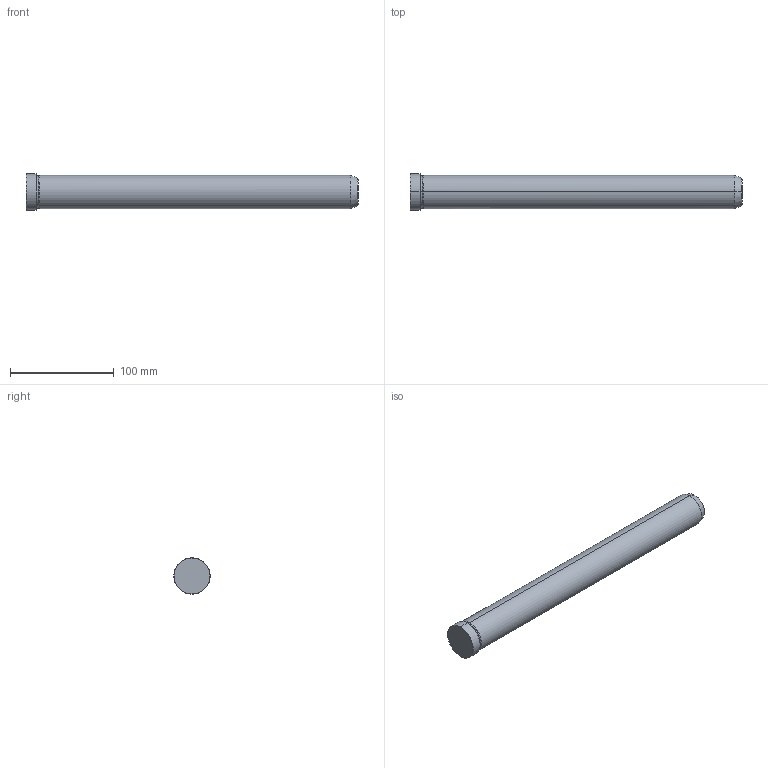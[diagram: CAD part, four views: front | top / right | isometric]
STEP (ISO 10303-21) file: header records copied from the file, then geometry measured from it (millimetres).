
FILE_DESCRIPTION(('CATIA V5 STEP Exchange'),'2;1');
FILE_NAME('C:\Users\Utente\Desktop\IO LAVORO\3D X SITO CF\X SITO\PLASTICA\549\549-32X320.stp','2021-12-18T07:55:58+00:00',('none'),('none'),'CATIA Version 5 Release 20 GA (IN-10)','CATIA V5 STEP AP203','none');
FILE_SCHEMA(('CONFIG_CONTROL_DESIGN'));
Length unit declared in the file: millimetre
Products named in the file (1): 549-32X320
Bounding box: 320 x 35 x 35 mm (x, y, z)
Volume: 257864.4 mm3; surface area: 33920 mm2
Topology: 1 solids, 1 shells, 19 faces, 56 edges, 40 vertices
Faces by surface type: cone 8, cylinder 6, plane 3, torus 2
Entity records: 736 total; most frequent: CARTESIAN_POINT 192, ORIENTED_EDGE 112, DIRECTION 86, EDGE_CURVE 56, AXIS2_PLACEMENT_3D 54, VERTEX_POINT 40, CIRCLE 34, EDGE_LOOP 20
